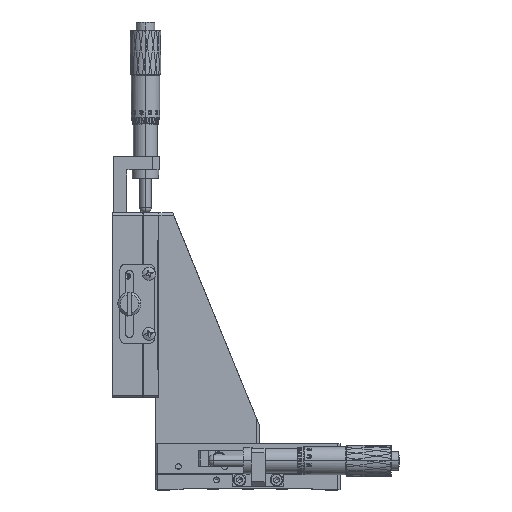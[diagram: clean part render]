
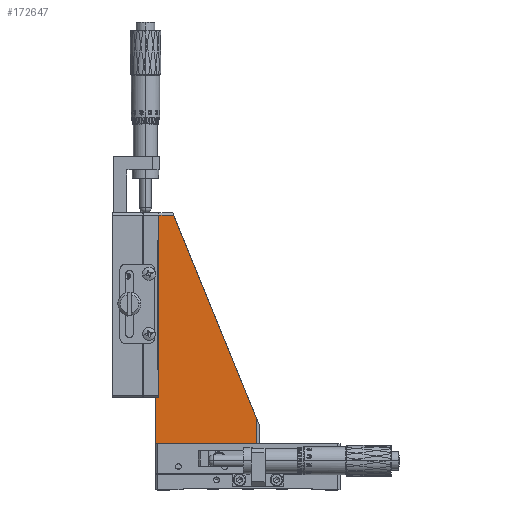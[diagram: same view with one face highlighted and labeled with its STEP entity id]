
A CAD part, top view. The second image highlights one B-rep face of the part: STEP entity #172647.
In plain terms, the highlighted planar face has unit normal (0, 0, 1).
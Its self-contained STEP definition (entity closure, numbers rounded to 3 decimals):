
#2661 = LINE ( 'NONE', #5959, #136863 ) ;
#5959 = CARTESIAN_POINT ( 'NONE',  ( 50.75, 0., 40. ) ) ;
#12566 = EDGE_CURVE ( 'NONE', #25692, #130034, #101410, .T. ) ;
#18029 = DIRECTION ( 'NONE',  ( 0., 0., -1. ) ) ;
#21645 = ORIENTED_EDGE ( 'NONE', *, *, #12566, .F. ) ;
#23335 = DIRECTION ( 'NONE',  ( -1., 0., 0. ) ) ;
#25692 = VERTEX_POINT ( 'NONE', #62584 ) ;
#28475 = CARTESIAN_POINT ( 'NONE',  ( 8.25, 99., 40. ) ) ;
#32394 = VECTOR ( 'NONE', #165120, 1000. ) ;
#35986 = DIRECTION ( 'NONE',  ( 0., 1., 0. ) ) ;
#39537 = DIRECTION ( 'NONE',  ( 0., 1., 0. ) ) ;
#56057 = ORIENTED_EDGE ( 'NONE', *, *, #176230, .F. ) ;
#56478 = ORIENTED_EDGE ( 'NONE', *, *, #119020, .T. ) ;
#56935 = ORIENTED_EDGE ( 'NONE', *, *, #118730, .T. ) ;
#58866 = LINE ( 'NONE', #193402, #203625 ) ;
#60127 = DIRECTION ( 'NONE',  ( -1., 0., 0. ) ) ;
#62584 = CARTESIAN_POINT ( 'NONE',  ( 14.658, 99., 40. ) ) ;
#64629 = VERTEX_POINT ( 'NONE', #81115 ) ;
#68597 = VECTOR ( 'NONE', #153639, 1000. ) ;
#71294 = CARTESIAN_POINT ( 'NONE',  ( 6.75, 0., 40. ) ) ;
#71769 = CARTESIAN_POINT ( 'NONE',  ( 6.75, 0., 40. ) ) ;
#75593 = CARTESIAN_POINT ( 'NONE',  ( 6.75, 20., 40. ) ) ;
#75845 = AXIS2_PLACEMENT_3D ( 'NONE', #71294, #18029, #206933 ) ;
#81115 = CARTESIAN_POINT ( 'NONE',  ( 8.25, 20., 40. ) ) ;
#91907 = ORIENTED_EDGE ( 'NONE', *, *, #219567, .T. ) ;
#96123 = CARTESIAN_POINT ( 'NONE',  ( 8.25, 0., 40. ) ) ;
#96283 = VECTOR ( 'NONE', #60127, 1000. ) ;
#98044 = CARTESIAN_POINT ( 'NONE',  ( 6.75, 0., 40. ) ) ;
#100522 = LINE ( 'NONE', #151660, #32394 ) ;
#101410 = LINE ( 'NONE', #135845, #68597 ) ;
#102435 = FACE_OUTER_BOUND ( 'NONE', #188095, .T. ) ;
#103068 = VERTEX_POINT ( 'NONE', #188519 ) ;
#118730 = EDGE_CURVE ( 'NONE', #141646, #103068, #100522, .T. ) ;
#119020 = EDGE_CURVE ( 'NONE', #25692, #180949, #160181, .T. ) ;
#121843 = VERTEX_POINT ( 'NONE', #75593 ) ;
#126794 = CARTESIAN_POINT ( 'NONE',  ( 8.25, 99., 40. ) ) ;
#130034 = VERTEX_POINT ( 'NONE', #158044 ) ;
#135845 = CARTESIAN_POINT ( 'NONE',  ( 51.75, 8., 40. ) ) ;
#136863 = VECTOR ( 'NONE', #35986, 1000. ) ;
#141646 = VERTEX_POINT ( 'NONE', #98044 ) ;
#142913 = LINE ( 'NONE', #96123, #184240 ) ;
#151660 = CARTESIAN_POINT ( 'NONE',  ( 6.75, 0., 40. ) ) ;
#153639 = DIRECTION ( 'NONE',  ( 0.377, -0.926, 0. ) ) ;
#156616 = EDGE_CURVE ( 'NONE', #64629, #180949, #142913, .T. ) ;
#158044 = CARTESIAN_POINT ( 'NONE',  ( 50.75, 10.453, 40. ) ) ;
#159144 = ORIENTED_EDGE ( 'NONE', *, *, #176741, .T. ) ;
#160181 = LINE ( 'NONE', #126794, #96283 ) ;
#165120 = DIRECTION ( 'NONE',  ( 1., 0., 0. ) ) ;
#170307 = PLANE ( 'NONE',  #75845 ) ;
#172145 = ORIENTED_EDGE ( 'NONE', *, *, #156616, .F. ) ;
#172647 = ADVANCED_FACE ( 'NONE', ( #102435 ), #170307, .F. ) ;
#174055 = LINE ( 'NONE', #71769, #190103 ) ;
#176230 = EDGE_CURVE ( 'NONE', #141646, #121843, #174055, .T. ) ;
#176741 = EDGE_CURVE ( 'NONE', #103068, #130034, #2661, .T. ) ;
#180949 = VERTEX_POINT ( 'NONE', #28475 ) ;
#184240 = VECTOR ( 'NONE', #210757, 1000. ) ;
#188095 = EDGE_LOOP ( 'NONE', ( #21645, #56478, #172145, #91907, #56057, #56935, #159144 ) ) ;
#188519 = CARTESIAN_POINT ( 'NONE',  ( 50.75, 0., 40. ) ) ;
#190103 = VECTOR ( 'NONE', #39537, 1000. ) ;
#193402 = CARTESIAN_POINT ( 'NONE',  ( 8.25, 20., 40. ) ) ;
#203625 = VECTOR ( 'NONE', #23335, 1000. ) ;
#206933 = DIRECTION ( 'NONE',  ( -1., 0., 0. ) ) ;
#210757 = DIRECTION ( 'NONE',  ( 0., 1., 0. ) ) ;
#219567 = EDGE_CURVE ( 'NONE', #64629, #121843, #58866, .T. ) ;
